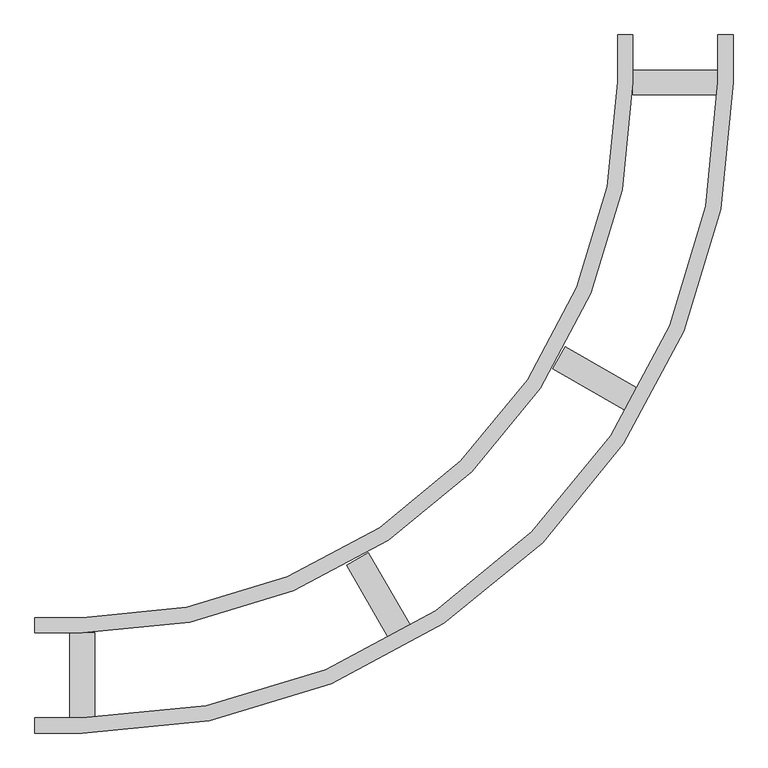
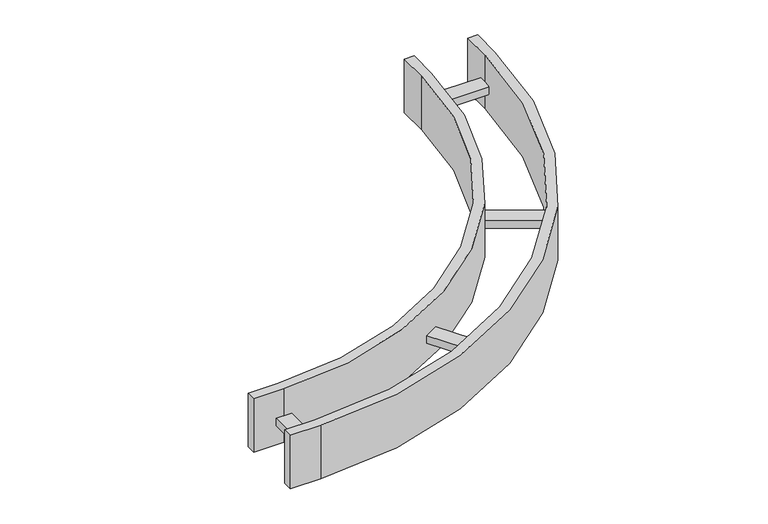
"""IFC4 building model written with IfcOpenShell, lengths in millimetres: cable carrier fitting geometry, Legrand_CableLadder_Swifts_Emerald_FlatBend-13 : Hot Dip Galvanised (after manufacture)."""

from ifc_helpers import new_model, si_unit, point, frame, frame_2d, origin, place, context, project, spatial, polyline, circle_curve, trimmed, segment, composite_curve, outline, extrude, source, transform, mapped, element, save


def cable_carrier_fitting_bd5dcc2e(model_context):
    return source(origin(), model_context, "Body", "SweptSolid", [
        extrude(outline(polyline([(-480.9365335, 61.1518561), (-552.4365335, 184.9934888), (-516.0634665, 205.9934888), (-444.5634665, 82.1518561), (-480.9365335, 61.1518561)])), frame((0.0, 0.0, -21.0), z_axis=(0.0, 0.0, 1.0), x_axis=(1.0, 0.0, 0.0)), (0.0, 0.0, 1.0), 21.0),
        extrude(outline(polyline([(-82.1518561, 444.5634665), (-205.9934888, 516.0634665), (-184.9934888, 552.4365335), (-61.1518561, 480.9365335), (-82.1518561, 444.5634665)])), frame((0.0, 0.0, -21.0), z_axis=(0.0, 0.0, 1.0), x_axis=(1.0, 0.0, 0.0)), (0.0, 0.0, 1.0), 21.0),
        extrude(outline(polyline([(-1018.0, -71.5), (-1018.0, 71.5), (-976.0, 71.5), (-976.0, -71.5), (-1018.0, -71.5)])), frame((0.0, 0.0, -21.0), z_axis=(0.0, 0.0, 1.0), x_axis=(1.0, 0.0, 0.0)), (0.0, 0.0, 1.0), 21.0),
        extrude(outline(polyline([(71.5, 976.0), (-71.5, 976.0), (-71.5, 1018.0), (71.5, 1018.0), (71.5, 976.0)])), frame((0.0, 0.0, -21.0), z_axis=(0.0, 0.0, 1.0), x_axis=(1.0, 0.0, 0.0)), (0.0, 0.0, 1.0), 21.0),
        extrude(outline(composite_curve([segment(polyline([(-1077.0, -97.0), (-1077.0, -71.5), (-997.0, -71.5)]), True, "CONTINUOUS"), segment(trimmed(circle_curve(frame_2d((-997.0, 997.0)), 1068.5), [point((-997.0, -71.5))], [point((71.5, 997.0))], True, "CARTESIAN"), True, "CONTINUOUS"), segment(polyline([(71.5, 997.0), (71.5, 1077.0), (97.0, 1077.0), (97.0, 997.0)]), True, "CONTINUOUS"), segment(trimmed(circle_curve(frame_2d((-997.0, 997.0)), 1094.0), [point((97.0, 997.0))], [point((-997.0, -97.0))], False, "CARTESIAN"), True, "CONTINUOUS"), segment(polyline([(-997.0, -97.0), (-1077.0, -97.0)]), True, "CONTINUOUS")], self_intersect=False)), frame((0.0, 0.0, -75.0), z_axis=(0.0, 0.0, 1.0), x_axis=(1.0, 0.0, 0.0)), (0.0, 0.0, 1.0), 150.0),
        extrude(outline(composite_curve([segment(polyline([(-1077.0, 71.5), (-1077.0, 97.0), (-997.0, 97.0)]), True, "CONTINUOUS"), segment(trimmed(circle_curve(frame_2d((-997.0, 997.0)), 900.0), [point((-997.0, 97.0))], [point((-97.0, 997.0))], True, "CARTESIAN"), True, "CONTINUOUS"), segment(polyline([(-97.0, 997.0), (-97.0, 1077.0), (-71.5, 1077.0), (-71.5, 997.0)]), True, "CONTINUOUS"), segment(trimmed(circle_curve(frame_2d((-997.0, 997.0)), 925.5), [point((-71.5, 997.0))], [point((-997.0, 71.5))], False, "CARTESIAN"), True, "CONTINUOUS"), segment(polyline([(-997.0, 71.5), (-1077.0, 71.5)]), True, "CONTINUOUS")], self_intersect=False)), frame((0.0, 0.0, -75.0), z_axis=(0.0, 0.0, 1.0), x_axis=(1.0, 0.0, 0.0)), (0.0, 0.0, 1.0), 150.0),
    ])


if __name__ == "__main__":
    model = new_model("IFC4")
    model_context = context("Model", 3, world=origin())
    ifc_project = project(units=[si_unit("LENGTHUNIT", "METRE", prefix="MILLI")], contexts=[model_context])
    site = spatial("IfcSite", under=ifc_project)
    building = spatial("IfcBuilding", under=site)
    placement = place(None, origin())
    cable_carrier_fitting_shape = cable_carrier_fitting_bd5dcc2e(model_context)
    element("IfcCableCarrierFitting", 1, ObjectType="Legrand_CableLadder_Swifts_Emerald_FlatBend-13 : Hot Dip Galvanised (after manufacture)", at=placement, inside=building, context=model_context, shape_type="MappedRepresentation", body=[
        mapped(cable_carrier_fitting_shape, transform((0.0, 0.0, 0.0), x_axis=(1.0, 0.0, 0.0), y_axis=(0.0, 1.0, 0.0), z_axis=(0.0, 0.0, 1.0))),
    ])
    save(model, "model.ifc")
